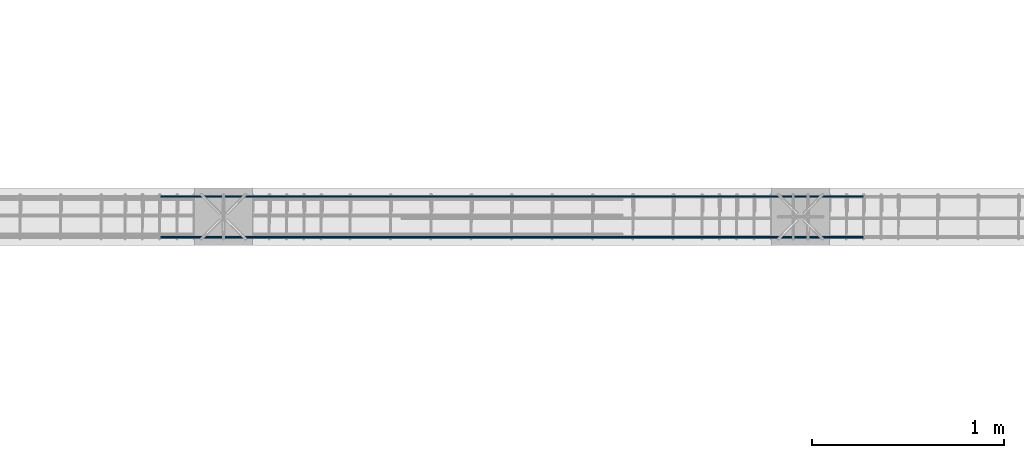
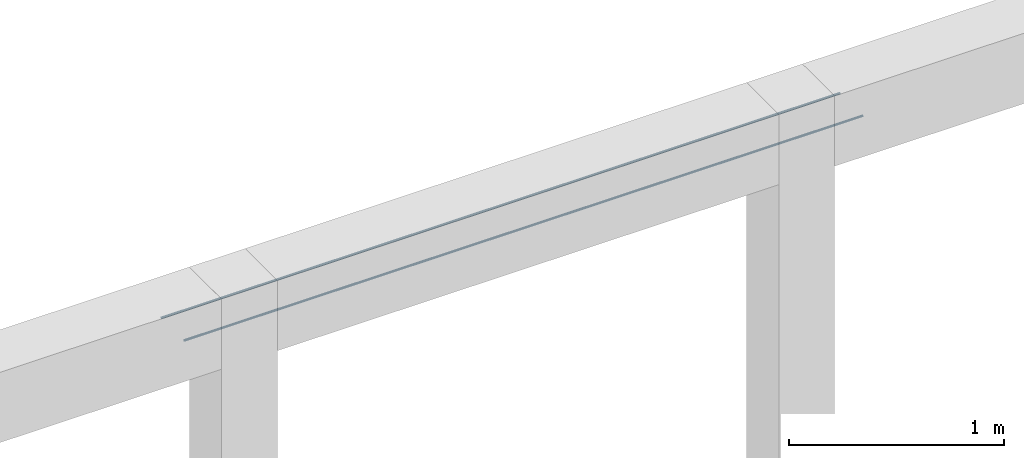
# One storey, part 12 of 24: 1 reinforcing bar.
"""IFC2X3 building model written with IfcOpenShell, lengths in metres."""

from ifc_helpers import new_model, entity, si_unit, direction, frame, origin, place, context, subcontext, project, spatial, shape, source, transform, mapped, element, save


model = new_model("IFC2X3")

# Units and contexts
model_context = context("Model", 3, precision=0.0, world=origin(), true_north=direction((0.0, 1.0)))
plan_context = context("Plan", 3, precision=0.0, world=origin(), true_north=direction((0.0, 1.0)))
body_context = subcontext(model_context, "Body", "Model", "MODEL_VIEW", scale=1.0)
ifc_project = project(units=[si_unit("LENGTHUNIT", "METRE"), si_unit("AREAUNIT", "SQUARE_METRE"), si_unit("VOLUMEUNIT", "CUBIC_METRE"), si_unit("PLANEANGLEUNIT", "RADIAN"), si_unit("THERMODYNAMICTEMPERATUREUNIT", "DEGREE_CELSIUS"), si_unit("FORCEUNIT", "NEWTON"), si_unit("MASSUNIT", "GRAM", prefix="KILO")], contexts=[model_context, plan_context])

# Site, building, storey
placement = place(None, origin())
site = spatial("IfcSite", under=ifc_project, at=placement, Name="Default Site", CompositionType="ELEMENT")
building = spatial("IfcBuilding", under=site, at=placement, Name="Default Building", CompositionType="ELEMENT")
storey_placement = place(placement, frame((0.0, 0.0, 3.3), z_axis=(1.0, 0.0, 0.0), x_axis=(0.0, 0.0, 1.0)))
storey = spatial("IfcBuildingStorey", under=building, at=storey_placement, Name="Piano 2", CompositionType="ELEMENT", Elevation=3.3)

# Reinforcing bar
shared_shape_1 = source(origin(), body_context, None, "AdvancedSweptSolid", [
    entity("IfcSweptDiskSolid", entity("IfcCompositeCurve", [entity("IfcCompositeCurveSegment", "CONTINUOUS", True, entity("IfcPolyline", [entity("IfcCartesianPoint", [0.0, 0.0, 0.0]), entity("IfcCartesianPoint", [0.326909, 0.0, 0.0]), entity("IfcCartesianPoint", [3.326909, 0.0, 0.0]), entity("IfcCartesianPoint", [3.653818, 0.0, 0.0])]))], False), 0.006, 0.0, 0.0),
])
shared_shape_2 = source(origin(), body_context, None, "MappedRepresentation", [mapped(shared_shape_1, transform((3.673091, 5.106, 3.099)))])
shared_shape_3 = source(origin(), body_context, None, "AdvancedSweptSolid", [
    entity("IfcSweptDiskSolid", entity("IfcCompositeCurve", [entity("IfcCompositeCurveSegment", "CONTINUOUS", True, entity("IfcPolyline", [entity("IfcCartesianPoint", [0.0, 0.0, 0.0]), entity("IfcCartesianPoint", [0.326909, 0.0, 0.0]), entity("IfcCartesianPoint", [3.326909, 0.0, 0.0]), entity("IfcCartesianPoint", [3.653818, 0.0, 0.0])]))], False), 0.006, 0.0, 0.0),
])
shared_shape_4 = source(origin(), body_context, None, "MappedRepresentation", [mapped(shared_shape_3, transform((3.673091, 4.894, 3.099)))])
element("IfcReinforcingBar", 1, at=placement, inside=storey, Name="Arm Generica; Trave:6 [Piano:2]", BarLength=7.307635, BarRole="NOTDEFINED", BarSurface="TEXTURED", NominalDiameter=0.012, shapes=[
    shape(body_context, None, "MappedRepresentation", [mapped(shared_shape_2, transform((0.0, 0.0, 0.0))), mapped(shared_shape_4, transform((0.0, 0.0, 0.0)))]),
])

save(model, "model.ifc")
